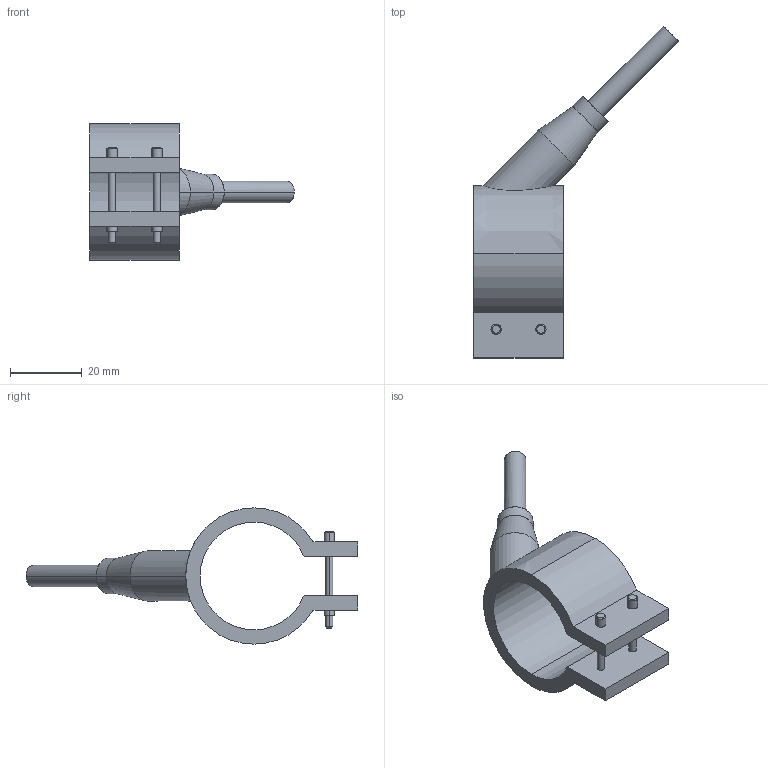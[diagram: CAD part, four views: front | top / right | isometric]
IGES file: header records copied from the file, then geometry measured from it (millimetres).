
Start section: START RECORD GO HERE.
Global section: file name: 29030025.igs; native system: DASSAULT SYSTEMES CATIA V5 R20 - www.3ds.com; preprocessor: CATIA Version 5 Release 20 ; author: Utente; organization: NB04-ASUS; date: 20210327.100808; units: millimetre
Bounding box: 57.05 x 92.55 x 38 mm (x, y, z)
Surface area: 9013 mm2 (no closed solid volume)
Topology: 0 solids, 0 shells, 54 faces, 244 edges, 244 vertices
Faces by surface type: revolution 38, plane 16
